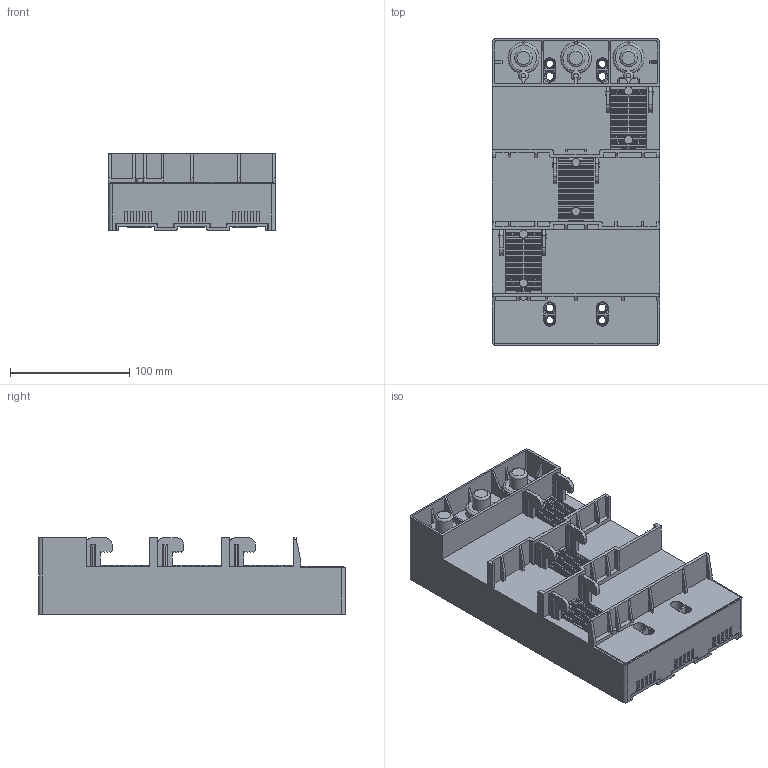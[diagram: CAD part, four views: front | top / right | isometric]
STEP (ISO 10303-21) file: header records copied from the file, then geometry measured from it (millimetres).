
FILE_DESCRIPTION (( 'STEP AP203' ), '1' );
FILE_NAME ('55001.STEP', '2021-08-26T08:02:11', ( '' ), ( '' ), 'SwSTEP 2.0', 'SolidWorks 2017', '' );
FILE_SCHEMA (( 'CONFIG_CONTROL_DESIGN' ));
Products named in the file (2): 55001
Bounding box: 140 x 257 x 64 mm (x, y, z)
Volume: 1386497.9 mm3; surface area: 206262.1 mm2
Topology: 1 solids, 7 shells, 2063 faces, 5906 edges, 3891 vertices
Faces by surface type: plane 1610, cylinder 289, bspline 108, cone 38, torus 18
Full cylindrical faces by diameter (mm): 3.2 x3, 3.3 x3, 6 x4, 6.3 x4, 7 x6, 8.4 x6, 9 x3, 10.5 x3, 11 x2, 15 x3, 21 x3, 22 x3
Entity records: 73600 total; most frequent: CARTESIAN_POINT 20761, ORIENTED_EDGE 11570, DIRECTION 9852, EDGE_CURVE 5785, VECTOR 4696, LINE 4696, VERTEX_POINT 3844, AXIS2_PLACEMENT_3D 2578
